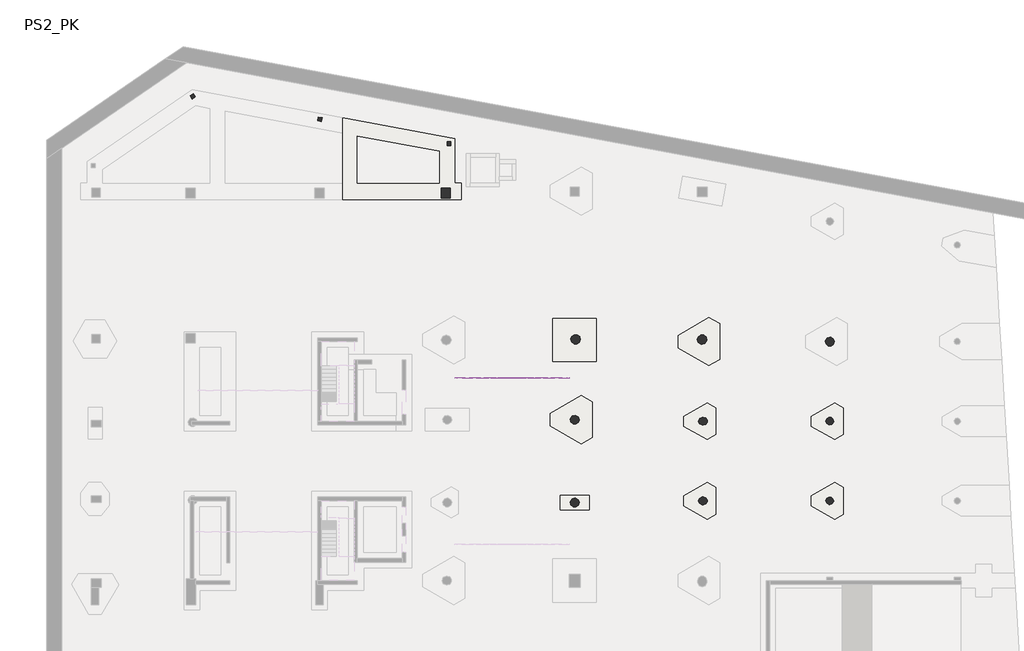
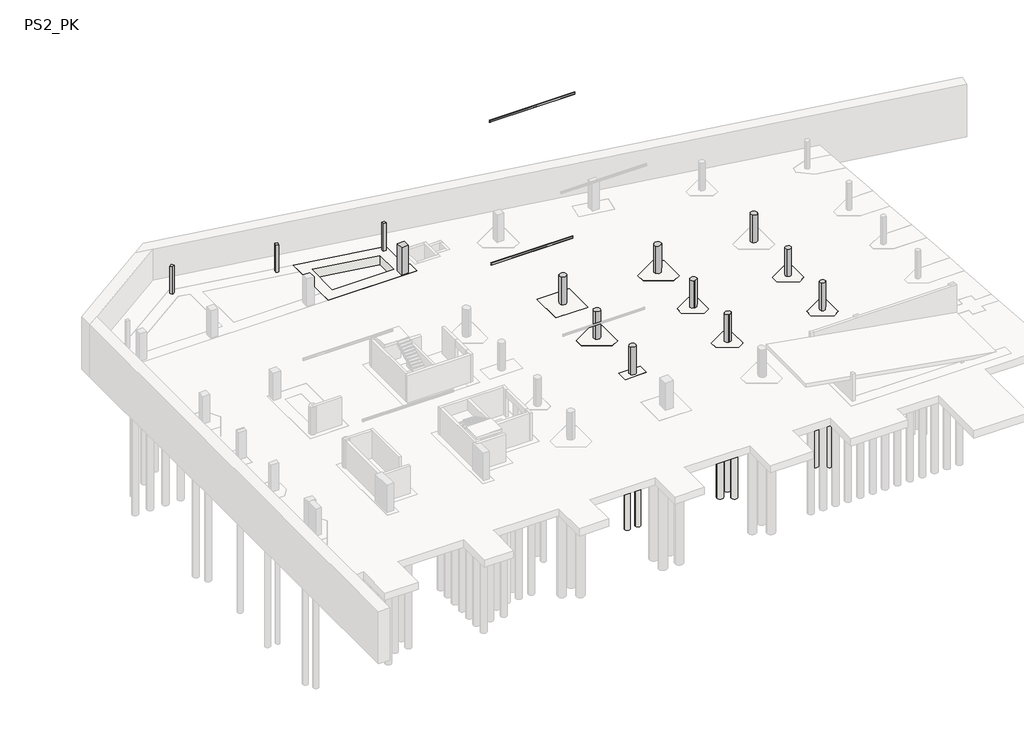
# One storey, part 7 of 10: 48 slabs, 13 columns, 2 beams.
"""IFC4 building model written with IfcOpenShell, lengths in millimetres."""

from ifc_helpers import new_model, si_unit, point, frame, frame_2d, origin, place, context, project, spatial, polyline, circle_curve, trimmed, segment, composite_curve, outline, extrude, faceted_brep, transform, mapped, element, save
from ifc_brep_helpers import plane_surface, cylinder_surface, advanced_brep
from components import upn200x75_3e587e5f, upn200x75_de95b273, columna_seccomp_circ_columna_seccomp_circ_600x700_09dd4ec2

model = new_model("IFC4")

# Units and contexts
model_context = context("Model", 3, world=origin())
ifc_project = project(units=[si_unit("LENGTHUNIT", "METRE", prefix="MILLI")], contexts=[model_context])

# Site, building, storey
site = spatial("IfcSite", under=ifc_project)
building = spatial("IfcBuilding", under=site)
storey = spatial("IfcBuildingStorey", under=building, Name="PS2_PK", Elevation=-1600.0)

# Beams
placement = place(None, origin())
upn200x75_shape = upn200x75_3e587e5f(model_context)
element("IfcBeam", 1, ObjectType="M_MC Shapes : UPN200x75", at=placement, inside=storey, context=model_context, shape_type="MappedRepresentation", body=[
    mapped(upn200x75_shape, transform((1578.7451436, 10990.5238327, 23660.0000368), x_axis=(-0.9999999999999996, 3.175673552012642e-08, 0.0), y_axis=(-3.175673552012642e-08, -0.9999999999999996, 0.0), z_axis=(0.0, 0.0, 1.0))),
])
upn200x75_2_shape = upn200x75_de95b273(model_context)
element("IfcBeam", 2, ObjectType="M_MC Shapes : UPN200x75", at=placement, inside=storey, context=model_context, shape_type="MappedRepresentation", body=[
    mapped(upn200x75_2_shape, transform((1578.7451428, 10990.5238327, 7760.0000231), x_axis=(-0.9999999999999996, 3.175673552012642e-08, 0.0), y_axis=(-3.175673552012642e-08, -0.9999999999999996, 0.0), z_axis=(0.0, 0.0, 1.0))),
])

# Columns
element("IfcColumn", 3, ObjectType="Hormigón-Redondo-Pilar : Pilo_Rodo-Formigo-700", at=placement, inside=storey, context=model_context, shape_type="SweptSolid", body=[
    extrude(outline(composite_curve([segment(trimmed(circle_curve(frame_2d((26484.7068935, 13864.8960687)), 350.0), [point((26196.4399761, 13666.3962342))], [point((26772.9738109, 14063.3959033))], False, "CARTESIAN"), True, "CONTINUOUS"), segment(trimmed(circle_curve(frame_2d((26484.7068935, 13864.8960687)), 350.0), [point((26772.9738109, 14063.3959033))], [point((26196.4399761, 13666.3962342))], False, "CARTESIAN"), True, "CONTINUOUS")], self_intersect=False)), frame((0.0, 0.0, -1600.0), z_axis=(0.0, 0.0, 1.0), x_axis=(1.0, 0.0, 0.0)), (0.0, 0.0, 1.0), 3050.0),
])
element("IfcColumn", 4, ObjectType="Hormigón-Redondo-Pilar : Pilo_Rodo-Formigo-700", at=placement, inside=storey, context=model_context, shape_type="SweptSolid", body=[
    extrude(outline(composite_curve([segment(trimmed(circle_curve(frame_2d((6484.70689, 1239.8960687)), 350.0), [point((6196.4399726, 1041.3962341))], [point((6772.9738074, 1438.3959033))], False, "CARTESIAN"), True, "CONTINUOUS"), segment(trimmed(circle_curve(frame_2d((6484.70689, 1239.8960687)), 350.0), [point((6772.9738074, 1438.3959033))], [point((6196.4399726, 1041.3962341))], False, "CARTESIAN"), True, "CONTINUOUS")], self_intersect=False)), frame((0.0, 0.0, -1600.0), z_axis=(0.0, 0.0, 1.0), x_axis=(1.0, 0.0, 0.0)), (0.0, 0.0, 1.0), 3050.0),
])
element("IfcColumn", 5, ObjectType="Hormigón-Redondo-Pilar : Pilo_Rodo-Formigo-700", at=placement, inside=storey, context=model_context, shape_type="SweptSolid", body=[
    extrude(outline(composite_curve([segment(trimmed(circle_curve(frame_2d((6484.70689, 7739.8960687)), 350.0), [point((6196.4399726, 7541.3962342))], [point((6772.9738074, 7938.3959033))], False, "CARTESIAN"), True, "CONTINUOUS"), segment(trimmed(circle_curve(frame_2d((6484.70689, 7739.8960687)), 350.0), [point((6772.9738074, 7938.3959033))], [point((6196.4399726, 7541.3962342))], False, "CARTESIAN"), True, "CONTINUOUS")], self_intersect=False)), frame((0.0, 0.0, -1600.0), z_axis=(0.0, 0.0, 1.0), x_axis=(1.0, 0.0, 0.0)), (0.0, 0.0, 1.0), 3050.0),
])
element("IfcColumn", 6, ObjectType="Hormigón-Redondo-Pilar : Pilo_Rodo-Formigo-600", at=placement, inside=storey, context=model_context, shape_type="SweptSolid", body=[
    extrude(outline(composite_curve([segment(trimmed(circle_curve(frame_2d((26484.7068935, 1364.9008549)), 300.0), [point((26237.6209643, 1194.7581395))], [point((26731.7928227, 1535.0435703))], False, "CARTESIAN"), True, "CONTINUOUS"), segment(trimmed(circle_curve(frame_2d((26484.7068935, 1364.9008549)), 300.0), [point((26731.7928227, 1535.0435703))], [point((26237.6209643, 1194.7581395))], False, "CARTESIAN"), True, "CONTINUOUS")], self_intersect=False)), frame((0.0, 0.0, -1600.0), z_axis=(0.0, 0.0, 1.0), x_axis=(1.0, 0.0, 0.0)), (0.0, 0.0, 1.0), 3050.0),
])
element("IfcColumn", 7, ObjectType="Hormigón-Redondo-Pilar : Pilo_Rodo-Formigo-600", at=placement, inside=storey, context=model_context, shape_type="SweptSolid", body=[
    extrude(outline(composite_curve([segment(trimmed(circle_curve(frame_2d((26484.7068935, 7614.9008582)), 300.0), [point((26237.6209643, 7444.7581428))], [point((26731.7928227, 7785.0435735))], False, "CARTESIAN"), True, "CONTINUOUS"), segment(trimmed(circle_curve(frame_2d((26484.7068935, 7614.9008582)), 300.0), [point((26731.7928227, 7785.0435735))], [point((26237.6209643, 7444.7581428))], False, "CARTESIAN"), True, "CONTINUOUS")], self_intersect=False)), frame((0.0, 0.0, -1600.0), z_axis=(0.0, 0.0, 1.0), x_axis=(1.0, 0.0, 0.0)), (0.0, 0.0, 1.0), 3050.0),
])
element("IfcColumn", 8, ObjectType="Hormigón-Redondo-Pilar : Pilo_Rodo-Formigo-750", at=placement, inside=storey, context=model_context, shape_type="SweptSolid", body=[
    extrude(outline(composite_curve([segment(trimmed(circle_curve(frame_2d((16483.7926044, 14014.3563294)), 375.0), [point((16174.9351929, 13801.6779352))], [point((16792.650016, 14227.0347236))], False, "CARTESIAN"), True, "CONTINUOUS"), segment(trimmed(circle_curve(frame_2d((16483.7926044, 14014.3563294)), 375.0), [point((16792.650016, 14227.0347236))], [point((16174.9351929, 13801.6779352))], False, "CARTESIAN"), True, "CONTINUOUS")], self_intersect=False)), frame((0.0, 0.0, -1600.0), z_axis=(0.0, 0.0, 1.0), x_axis=(1.0, 0.0, 0.0)), (0.0, 0.0, 1.0), 3050.0),
])
element("IfcColumn", 9, ObjectType="Hormigón-Redondo-Pilar : Pilo_Rodo-Formigo-750", at=placement, inside=storey, context=model_context, shape_type="SweptSolid", body=[
    extrude(outline(composite_curve([segment(trimmed(circle_curve(frame_2d((6558.8547778, 14039.3688755)), 375.0), [point((6249.9973663, 13826.6904813))], [point((6867.7121893, 14252.0472697))], False, "CARTESIAN"), True, "CONTINUOUS"), segment(trimmed(circle_curve(frame_2d((6558.8547778, 14039.3688755)), 375.0), [point((6867.7121893, 14252.0472697))], [point((6249.9973663, 13826.6904813))], False, "CARTESIAN"), True, "CONTINUOUS")], self_intersect=False)), frame((0.0, 0.0, -1600.0), z_axis=(0.0, 0.0, 1.0), x_axis=(1.0, 0.0, 0.0)), (0.0, 0.0, 1.0), 3050.0),
])
columna_seccomp_circ_columna_seccomp_circ_600x700_shape = columna_seccomp_circ_columna_seccomp_circ_600x700_09dd4ec2(model_context)
element("IfcColumn", 10, ObjectType="Columna_SecComp_Circ : Columna_SecComp_Circ_600x700", at=placement, inside=storey, context=model_context, shape_type="MappedRepresentation", body=[
    mapped(columna_seccomp_circ_columna_seccomp_circ_600x700_shape, transform((16534.7123127, 7614.8576326, 0.0), x_axis=(0.9999999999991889, -1.2737410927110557e-06, 0.0), y_axis=(1.2737410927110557e-06, 0.9999999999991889, 0.0), z_axis=(0.0, 0.0, 1.0))),
])
element("IfcColumn", 11, ObjectType="Columna_SecComp_Circ : Columna_SecComp_Circ_600x700", at=placement, inside=storey, context=model_context, shape_type="MappedRepresentation", body=[
    mapped(columna_seccomp_circ_columna_seccomp_circ_600x700_shape, transform((16534.7044202, 1364.8576338, 0.0), x_axis=(0.9999999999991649, -1.2923419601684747e-06, 0.0), y_axis=(1.2923419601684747e-06, 0.9999999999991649, 0.0), z_axis=(0.0, 0.0, 1.0))),
])
element("IfcColumn", 12, ObjectType="Concrete-Rectangular-Column : Pilar_Rectangular-Formigo-700x750", at=placement, inside=storey, context=model_context, shape_type="SweptSolid", body=[
    extrude(outline(polyline([(-3266.5947957, 25889.4000401), (-3266.5957418, 25139.4000401), (-3966.5957418, 25139.4009232), (-3966.5947957, 25889.4009232), (-3266.5947957, 25889.4000401)])), frame((0.0, 0.0, -1600.0), z_axis=(0.0, 0.0, 1.0), x_axis=(1.0, 0.0, 0.0)), (0.0, 0.0, 1.0), 3050.0),
])
element("IfcColumn", 13, ObjectType="Concrete-Rectangular-Column : Pilar_Rectangular-Formigo-300x300", at=placement, inside=storey, context=model_context, shape_type="SweptSolid", body=[
    extrude(outline(polyline([(-23416.0051635, 33307.9010156), (-23246.4572551, 33060.4065575), (-23493.9517132, 32890.8586491), (-23663.4996216, 33138.3531072), (-23416.0051635, 33307.9010156)])), frame((0.0, 0.0, -1600.0), z_axis=(0.0, 0.0, 1.0), x_axis=(1.0, 0.0, 0.0)), (0.0, 0.0, 1.0), 3050.0),
])
element("IfcColumn", 14, ObjectType="Concrete-Rectangular-Column : Pilar_Rectangular-Formigo-300x300", at=placement, inside=storey, context=model_context, shape_type="SweptSolid", body=[
    extrude(outline(polyline([(-13313.0928638, 31425.530421), (-13367.4571491, 31130.4973305), (-13662.4902396, 31184.8616158), (-13608.1259543, 31479.8947063), (-13313.0928638, 31425.530421)])), frame((0.0, 0.0, -1600.0), z_axis=(0.0, 0.0, 1.0), x_axis=(1.0, 0.0, 0.0)), (0.0, 0.0, 1.0), 3050.0),
])
element("IfcColumn", 15, ObjectType="Concrete-Rectangular-Column : Pilar_Rectangular-Formigo-300x300", at=placement, inside=storey, context=model_context, shape_type="SweptSolid", body=[
    extrude(outline(polyline([(-3215.2773548, 29541.9126691), (-3215.2777339, 29241.9126691), (-3515.2777339, 29241.9130482), (-3515.2773548, 29541.9130482), (-3215.2773548, 29541.9126691)])), frame((0.0, 0.0, -1600.0), z_axis=(0.0, 0.0, 1.0), x_axis=(1.0, 0.0, 0.0)), (0.0, 0.0, 1.0), 3050.0),
])

# Slabs
element("IfcSlab", 16, ObjectType="FunCap_Concreto_1100", at=placement, inside=storey, context=model_context, shape_type="Brep", body=[
    faceted_brep([(7855.9029882, 9139.8700951, -2700.0), (7855.899446, 6339.8700948, -2700.0), (7011.5240598, 5852.3711635, -2700.0), (4586.6547012, 7252.3742307, -2700.0), (4586.655934, 8227.3742298, -2700.0), (7011.5288361, 9627.3711625, -2700.0), (7855.9029882, 9139.8700951, -1600.0), (7011.5288361, 9627.3711625, -1600.0), (4586.655934, 8227.3742298, -1600.0), (4586.6547012, 7252.3742307, -1600.0), (7011.5240598, 5852.3711635, -1600.0), (7855.899446, 6339.8700948, -1600.0), (7855.9029882, 9139.8700951, -2400.0), (7855.899446, 6339.8700948, -2400.0), (7011.5240598, 5852.3711635, -2400.0), (4586.6547012, 7252.3742307, -2400.0), (4586.655934, 8227.3742298, -2400.0), (7011.5288361, 9627.3711625, -2400.0)], [[[0, 1, 2, 3, 4, 5]], [[6, 7, 8, 9, 10, 11]], [[1, 0, 12, 6, 11, 13]], [[2, 1, 13, 11, 10, 14]], [[3, 2, 14, 10, 9, 15]], [[4, 3, 15, 9, 8, 16]], [[5, 4, 16, 8, 7, 17]], [[0, 5, 17, 7, 6, 12]]]),
])
element("IfcSlab", 17, ObjectType="FunCap_Concreto_1400", at=placement, inside=storey, context=model_context, shape_type="Brep", body=[
    faceted_brep([(-11740.2838214, 25014.8948826, -3000.0), (-11740.2766508, 30683.3357077, -3000.0), (-11740.2761638, 31068.2628162, -3000.0), (-11740.275697, 31437.3264138, -3000.0), (-2915.2752776, 29792.7810884, -3000.0), (-2915.2796771, 26314.8837209, -3000.0), (-2390.2821778, 26314.883056, -3000.0), (-2390.2838219, 25014.8830557, -3000.0), (-4119.7583398, 26314.885525, -3000.0), (-4119.7553151, 28790.9345659, -3000.0), (-10544.7563485, 29993.8823621, -3000.0), (-10544.7608402, 26314.8933703, -3000.0), (-11740.2838214, 25014.8948826, -1600.0), (-2390.2838219, 25014.8830557, -1600.0), (-2390.2821778, 26314.883056, -1600.0), (-2915.2796771, 26314.8837209, -1600.0), (-2915.2752776, 29792.7810884, -1600.0), (-11740.275697, 31437.3264138, -1600.0), (-11740.2772411, 30216.6685595, -1600.0), (-11740.2821769, 26314.8948822, -1600.0), (-4119.7583398, 26314.885525, -1600.0), (-10544.7608402, 26314.8933703, -1600.0), (-10544.7563485, 29993.8823621, -1600.0), (-4119.7553151, 28790.9345659, -1600.0), (-11740.2838214, 25014.8948826, -2700.0), (-11740.275697, 31437.3264138, -2700.0), (-2915.2752776, 29792.7810884, -2400.0), (-2915.2796771, 26314.8837209, -2400.0), (-2390.2821778, 26314.883056, -2400.0), (-2390.2838219, 25014.8830557, -2400.0)], [[[0, 1, 2, 3, 4, 5, 6, 7], [8, 9, 10, 11]], [[12, 13, 14, 15, 16, 17, 18, 19], [20, 21, 22, 23]], [[3, 2, 1, 0, 24, 12, 19, 18, 17, 25]], [[4, 3, 25, 17, 16, 26]], [[5, 4, 26, 16, 15, 27]], [[6, 5, 27, 15, 14, 28]], [[7, 6, 28, 14, 13, 29]], [[0, 7, 29, 13, 12, 24]], [[9, 8, 20, 23]], [[10, 9, 23, 22]], [[11, 10, 22, 21]], [[8, 11, 21, 20]]]),
])
element("IfcSlab", 18, ObjectType="FunCap_Concreto_1100", at=placement, inside=storey, context=model_context, shape_type="Brep", body=[
    faceted_brep([(17011.5365827, 15752.3585142, -2700.0), (17855.9107353, 15264.8574449, -2700.0), (17855.9071944, 12464.8574465, -2700.0), (17011.5318083, 11977.3585138, -2700.0), (14586.6624488, 13377.3615819, -2700.0), (14586.6636815, 14352.3615815, -2700.0), (17011.5365827, 15752.3585142, -1600.0), (14586.6636815, 14352.3615815, -1600.0), (14586.6624488, 13377.3615819, -1600.0), (17011.5318083, 11977.3585138, -1600.0), (17855.9071944, 12464.8574465, -1600.0), (17855.9107353, 15264.8574449, -1600.0), (17011.5365827, 15752.3585142, -2400.0), (17855.9107353, 15264.8574449, -2400.0), (17855.9071944, 12464.8574465, -2400.0), (17011.5318083, 11977.3585138, -2400.0), (14586.6624488, 13377.3615819, -2400.0), (14586.6636815, 14352.3615815, -2400.0)], [[[0, 1, 2, 3, 4, 5]], [[6, 7, 8, 9, 10, 11]], [[1, 0, 12, 6, 11, 13]], [[2, 1, 13, 11, 10, 14]], [[3, 2, 14, 10, 9, 15]], [[4, 3, 15, 9, 8, 16]], [[5, 4, 16, 8, 7, 17]], [[0, 5, 17, 7, 6, 12]]]),
])
element("IfcSlab", 19, ObjectType="FunCap_Concreto_1100", at=placement, inside=storey, context=model_context, shape_type="Brep", body=[
    faceted_brep([(4784.7043825, 15689.8739809, -2700.0), (8184.7043828, 15689.8696803, -2700.0), (8184.7000817, 12289.8696794, -2700.0), (4784.7000828, 12289.8739801, -2700.0), (4784.7043825, 15689.8739809, -1600.0), (4784.7000828, 12289.8739801, -1600.0), (8184.7000817, 12289.8696794, -1600.0), (8184.7043828, 15689.8696803, -1600.0), (4784.7043825, 15689.8739809, -2400.0), (8184.7043828, 15689.8696803, -2400.0), (8184.7000817, 12289.8696794, -2400.0), (4784.7000828, 12289.8739801, -2400.0)], [[[0, 1, 2, 3]], [[4, 5, 6, 7]], [[1, 0, 8, 4, 7, 9]], [[2, 1, 9, 7, 6, 10]], [[3, 2, 10, 6, 5, 11]], [[0, 3, 11, 5, 4, 8]]]),
])
element("IfcSlab", 20, ObjectType="FunCap_Concreto_1100", at=placement, inside=storey, context=model_context, shape_type="Brep", body=[
    faceted_brep([(15051.1118503, 7998.8033075, -2700.0), (16866.8943642, 9053.7601136, -2700.0), (17538.0635621, 8666.2592644, -2700.0), (17538.0609065, 6566.2592643, -2700.0), (16866.8907276, 6178.7601132, -2700.0), (15051.1108738, 7227.104163, -2700.0), (15051.1118503, 7998.8033075, -1600.0), (15051.1108738, 7227.104163, -1600.0), (16866.8907276, 6178.7601132, -1600.0), (17538.0609065, 6566.2592643, -1600.0), (17538.0635621, 8666.2592644, -1600.0), (16866.8943642, 9053.7601136, -1600.0), (15051.1118503, 7998.8033075, -2400.0), (16866.8943642, 9053.7601136, -2400.0), (17538.0635621, 8666.2592644, -2400.0), (17538.0609065, 6566.2592643, -2400.0), (16866.8907276, 6178.7601132, -2400.0), (15051.1108738, 7227.104163, -2400.0)], [[[0, 1, 2, 3, 4, 5]], [[6, 7, 8, 9, 10, 11]], [[1, 0, 12, 6, 11, 13]], [[2, 1, 13, 11, 10, 14]], [[3, 2, 14, 10, 9, 15]], [[4, 3, 15, 9, 8, 16]], [[5, 4, 16, 8, 7, 17]], [[0, 5, 17, 7, 6, 12]]]),
])
element("IfcSlab", 21, ObjectType="FunCap_Concreto_1100", at=placement, inside=storey, context=model_context, shape_type="Brep", body=[
    faceted_brep([(25051.1118512, 7998.7906582, -2700.0), (26866.8943642, 9053.7474649, -2700.0), (27538.0635631, 8666.2466161, -2700.0), (27538.0609065, 6566.2466146, -2700.0), (26866.890728, 6178.7474644, -2700.0), (25051.1108747, 7227.0915137, -2700.0), (25051.1118512, 7998.7906582, -1600.0), (25051.1108747, 7227.0915137, -1600.0), (26866.890728, 6178.7474644, -1600.0), (27538.0609065, 6566.2466146, -1600.0), (27538.0635631, 8666.2466161, -1600.0), (26866.8943642, 9053.7474649, -1600.0), (25051.1118512, 7998.7906582, -2400.0), (26866.8943642, 9053.7474649, -2400.0), (27538.0635631, 8666.2466161, -2400.0), (27538.0609065, 6566.2466146, -2400.0), (26866.890728, 6178.7474644, -2400.0), (25051.1108747, 7227.0915137, -2400.0)], [[[0, 1, 2, 3, 4, 5]], [[6, 7, 8, 9, 10, 11]], [[1, 0, 12, 6, 11, 13]], [[2, 1, 13, 11, 10, 14]], [[3, 2, 14, 10, 9, 15]], [[4, 3, 15, 9, 8, 16]], [[5, 4, 16, 8, 7, 17]], [[0, 5, 17, 7, 6, 12]]]),
])
element("IfcSlab", 22, ObjectType="FunCap_Concreto_1100", at=placement, inside=storey, context=model_context, shape_type="Brep", body=[
    faceted_brep([(25051.1039459, 1748.7906587, -2700.0), (26866.8864584, 2803.7474639, -2700.0), (27538.0556568, 2416.2466151, -2700.0), (27538.0529998, 316.2466155, -2700.0), (26866.8828227, -71.2525361, -2700.0), (25051.102968, 977.0915147, -2700.0), (25051.1039459, 1748.7906587, -1600.0), (25051.102968, 977.0915147, -1600.0), (26866.8828227, -71.2525361, -1600.0), (27538.0529998, 316.2466155, -1600.0), (27538.0556568, 2416.2466151, -1600.0), (26866.8864584, 2803.7474639, -1600.0), (25051.1039459, 1748.7906587, -2400.0), (26866.8864584, 2803.7474639, -2400.0), (27538.0556568, 2416.2466151, -2400.0), (27538.0529998, 316.2466155, -2400.0), (26866.8828227, -71.2525361, -2400.0), (25051.102968, 977.0915147, -2400.0)], [[[0, 1, 2, 3, 4, 5]], [[6, 7, 8, 9, 10, 11]], [[1, 0, 12, 6, 11, 13]], [[2, 1, 13, 11, 10, 14]], [[3, 2, 14, 10, 9, 15]], [[4, 3, 15, 9, 8, 16]], [[5, 4, 16, 8, 7, 17]], [[0, 5, 17, 7, 6, 12]]]),
])
element("IfcSlab", 23, ObjectType="FunCap_Concreto_1100", at=placement, inside=storey, context=model_context, shape_type="Brep", body=[
    faceted_brep([(15051.103945, 1748.8033065, -2700.0), (16866.8864598, 2803.7601136, -2700.0), (17538.0556559, 2416.2592644, -2700.0), (17538.0530008, 316.2592648, -2700.0), (16866.8828223, -71.2398878, -2700.0), (15051.1029689, 977.1041625, -2700.0), (15051.103945, 1748.8033065, -1600.0), (15051.1029689, 977.1041625, -1600.0), (16866.8828223, -71.2398878, -1600.0), (17538.0530008, 316.2592648, -1600.0), (17538.0556559, 2416.2592644, -1600.0), (16866.8864598, 2803.7601136, -1600.0), (15051.103945, 1748.8033065, -2400.0), (16866.8864598, 2803.7601136, -2400.0), (17538.0556559, 2416.2592644, -2400.0), (17538.0530008, 316.2592648, -2400.0), (16866.8828223, -71.2398878, -2400.0), (15051.1029689, 977.1041625, -2400.0)], [[[0, 1, 2, 3, 4, 5]], [[6, 7, 8, 9, 10, 11]], [[1, 0, 12, 6, 11, 13]], [[2, 1, 13, 11, 10, 14]], [[3, 2, 14, 10, 9, 15]], [[4, 3, 15, 9, 8, 16]], [[5, 4, 16, 8, 7, 17]], [[0, 5, 17, 7, 6, 12]]]),
])
element("IfcSlab", 24, ObjectType="FunCap_Concreto_1100", at=placement, inside=storey, context=model_context, shape_type="Brep", body=[
    faceted_brep([(5359.6868331, 1814.8732535, -2700.0), (7609.6868326, 1814.8704068, -2700.0), (7609.6853782, 664.8704069, -2700.0), (5359.6853796, 664.8732536, -2700.0), (5359.6868331, 1814.8732535, -1600.0), (5359.6853796, 664.8732536, -1600.0), (7609.6853782, 664.8704069, -1600.0), (7609.6868326, 1814.8704068, -1600.0), (5359.6868331, 1814.8732535, -2400.0), (7609.6868326, 1814.8704068, -2400.0), (7609.6853782, 664.8704069, -2400.0), (5359.6853796, 664.8732536, -2400.0)], [[[0, 1, 2, 3]], [[4, 5, 6, 7]], [[1, 0, 8, 4, 7, 9]], [[2, 1, 9, 7, 6, 10]], [[3, 2, 10, 6, 5, 11]], [[0, 3, 11, 5, 4, 8]]]),
])
element("IfcSlab", 25, ObjectType="Fun_Pilote_Redondo : Fun_Pilote_Redondo_550x16000", at=placement, inside=storey, context=model_context, shape_type="SweptSolid", body=[
    extrude(outline(composite_curve([segment(trimmed(circle_curve(frame_2d((7034.6861068, 1239.8686315)), 275.0), [point((6759.6861068, 1239.8686315))], [point((7309.6861068, 1239.8686315))], False, "CARTESIAN"), True, "CONTINUOUS"), segment(trimmed(circle_curve(frame_2d((7034.6861068, 1239.8686315)), 275.0), [point((7309.6861068, 1239.8686315))], [point((6759.6861068, 1239.8686315))], False, "CARTESIAN"), True, "CONTINUOUS")], self_intersect=False)), frame((0.0, 0.0, -18700.0), z_axis=(0.0, 0.0, 1.0), x_axis=(1.0, 0.0, 0.0)), (0.0, 0.0, 1.0), 16000.0),
])
element("IfcSlab", 26, ObjectType="Fun_Pilote_Redondo : Fun_Pilote_Redondo_550x16000", at=placement, inside=storey, context=model_context, shape_type="SweptSolid", body=[
    extrude(outline(composite_curve([segment(trimmed(circle_curve(frame_2d((5934.6861074, 1239.8700227)), 275.0), [point((5659.6861074, 1239.8700227))], [point((6209.6861074, 1239.8700227))], False, "CARTESIAN"), True, "CONTINUOUS"), segment(trimmed(circle_curve(frame_2d((5934.6861074, 1239.8700227)), 275.0), [point((6209.6861074, 1239.8700227))], [point((5659.6861074, 1239.8700227))], False, "CARTESIAN"), True, "CONTINUOUS")], self_intersect=False)), frame((0.0, 0.0, -18700.0), z_axis=(0.0, 0.0, 1.0), x_axis=(1.0, 0.0, 0.0)), (0.0, 0.0, 1.0), 16000.0),
])
element("IfcSlab", 27, ObjectType="Fun_Pilote_Redondo : Fun_Pilote_Redondo_Conc_650x16000", at=placement, inside=storey, context=model_context, shape_type="SweptSolid", body=[
    extrude(outline(composite_curve([segment(trimmed(circle_curve(frame_2d((-3015.2829939, 25664.8838456)), 325.0), [point((-3340.2829939, 25664.8838456))], [point((-2690.2829939, 25664.8838456))], False, "CARTESIAN"), True, "CONTINUOUS"), segment(trimmed(circle_curve(frame_2d((-3015.2829939, 25664.8838456)), 325.0), [point((-2690.2829939, 25664.8838456))], [point((-3340.2829939, 25664.8838456))], False, "CARTESIAN"), True, "CONTINUOUS")], self_intersect=False)), frame((0.0, 0.0, -18700.0), z_axis=(0.0, 0.0, 1.0), x_axis=(1.0, 0.0, 0.0)), (0.0, 0.0, 1.0), 15700.0),
])
element("IfcSlab", 28, ObjectType="Fun_Pilote_Redondo : Fun_Pilote_Redondo_Conc_650x16000", at=placement, inside=storey, context=model_context, shape_type="SweptSolid", body=[
    extrude(outline(composite_curve([segment(trimmed(circle_curve(frame_2d((-3515.2806976, 27479.5737597)), 325.0), [point((-3840.2806976, 27479.5737597))], [point((-3190.2806976, 27479.5737597))], False, "CARTESIAN"), True, "CONTINUOUS"), segment(trimmed(circle_curve(frame_2d((-3515.2806976, 27479.5737597)), 325.0), [point((-3190.2806976, 27479.5737597))], [point((-3840.2806976, 27479.5737597))], False, "CARTESIAN"), True, "CONTINUOUS")], self_intersect=False)), frame((0.0, 0.0, -18700.0), z_axis=(0.0, 0.0, 1.0), x_axis=(1.0, 0.0, 0.0)), (0.0, 0.0, 1.0), 15700.0),
])
element("IfcSlab", 29, ObjectType="Fun_Pilote_Redondo : Fun_Pilote_Redondo_Conc_650x16000", at=placement, inside=storey, context=model_context, shape_type="SweptSolid", body=[
    extrude(outline(composite_curve([segment(trimmed(circle_curve(frame_2d((-3515.2784017, 29294.2630416)), 325.0), [point((-3840.2784017, 29294.2630416))], [point((-3190.2784017, 29294.2630416))], False, "CARTESIAN"), True, "CONTINUOUS"), segment(trimmed(circle_curve(frame_2d((-3515.2784017, 29294.2630416)), 325.0), [point((-3190.2784017, 29294.2630416))], [point((-3840.2784017, 29294.2630416))], False, "CARTESIAN"), True, "CONTINUOUS")], self_intersect=False)), frame((0.0, 0.0, -18700.0), z_axis=(0.0, 0.0, 1.0), x_axis=(1.0, 0.0, 0.0)), (0.0, 0.0, 1.0), 15700.0),
])
element("IfcSlab", 30, ObjectType="Fun_Pilote_Redondo : Fun_Pilote_Redondo_Conc_650x16000", at=placement, inside=storey, context=model_context, shape_type="SweptSolid", body=[
    extrude(outline(composite_curve([segment(trimmed(circle_curve(frame_2d((-5636.9986891, 29689.6471802)), 325.0), [point((-5961.9986891, 29689.6471802))], [point((-5311.9986891, 29689.6471802))], False, "CARTESIAN"), True, "CONTINUOUS"), segment(trimmed(circle_curve(frame_2d((-5636.9986891, 29689.6471802)), 325.0), [point((-5311.9986891, 29689.6471802))], [point((-5961.9986891, 29689.6471802))], False, "CARTESIAN"), True, "CONTINUOUS")], self_intersect=False)), frame((0.0, 0.0, -18700.0), z_axis=(0.0, 0.0, 1.0), x_axis=(1.0, 0.0, 0.0)), (0.0, 0.0, 1.0), 15700.0),
])
element("IfcSlab", 31, ObjectType="Fun_Pilote_Redondo : Fun_Pilote_Redondo_Conc_650x16000", at=placement, inside=storey, context=model_context, shape_type="SweptSolid", body=[
    extrude(outline(composite_curve([segment(trimmed(circle_curve(frame_2d((-7758.718976, 30085.0313179)), 325.0), [point((-8083.718976, 30085.0313179))], [point((-7433.718976, 30085.0313179))], False, "CARTESIAN"), True, "CONTINUOUS"), segment(trimmed(circle_curve(frame_2d((-7758.718976, 30085.0313179)), 325.0), [point((-7433.718976, 30085.0313179))], [point((-8083.718976, 30085.0313179))], False, "CARTESIAN"), True, "CONTINUOUS")], self_intersect=False)), frame((0.0, 0.0, -18700.0), z_axis=(0.0, 0.0, 1.0), x_axis=(1.0, 0.0, 0.0)), (0.0, 0.0, 1.0), 15700.0),
])
element("IfcSlab", 32, ObjectType="Fun_Pilote_Redondo : Fun_Pilote_Redondo_Conc_650x16000", at=placement, inside=storey, context=model_context, shape_type="SweptSolid", body=[
    extrude(outline(composite_curve([segment(trimmed(circle_curve(frame_2d((-9880.4392628, 30480.4154556)), 325.0), [point((-10205.4392628, 30480.4154556))], [point((-9555.4392628, 30480.4154556))], False, "CARTESIAN"), True, "CONTINUOUS"), segment(trimmed(circle_curve(frame_2d((-9880.4392628, 30480.4154556)), 325.0), [point((-9555.4392628, 30480.4154556))], [point((-10205.4392628, 30480.4154556))], False, "CARTESIAN"), True, "CONTINUOUS")], self_intersect=False)), frame((0.0, 0.0, -18700.0), z_axis=(0.0, 0.0, 1.0), x_axis=(1.0, 0.0, 0.0)), (0.0, 0.0, 1.0), 15700.0),
])
element("IfcSlab", 33, ObjectType="Fun_Pilote_Redondo : Fun_Pilote_Redondo_Conc_650x16000", at=placement, inside=storey, context=model_context, shape_type="AdvancedBrep", body=[
    advanced_brep(
    [(-12327.1595497, 30875.7995932, -2700.0), (-11740.2766508, 30683.3357077, -2700.0), (-11740.2761638, 31068.2628162, -2700.0), (-12327.1595497, 30875.7995932, -18700.0), (-11677.1595497, 30875.7995932, -18700.0), (-11677.1595497, 30875.7995932, -3000.0), (-11740.2766508, 30683.3357077, -3000.0), (-11740.2761638, 31068.2628162, -3000.0)],
    [
        (0, 1, circle_curve(frame((-12002.1595497, 30875.7995932, -2700.0), z_axis=(0.0, 0.0, 1.0), x_axis=(1.0, 0.0, 0.0)), 325.0)),
        (1, 2),
        (2, 0, circle_curve(frame((-12002.1595497, 30875.7995932, -2700.0), z_axis=(0.0, 0.0, 1.0), x_axis=(1.0, 0.0, 0.0)), 325.0)),
        (3, 4, circle_curve(frame((-12002.1595497, 30875.7995932, -18700.0), z_axis=(0.0, 0.0, -1.0), x_axis=(1.0, 0.0, 0.0)), 325.0)),
        (4, 3, circle_curve(frame((-12002.1595497, 30875.7995932, -18700.0), z_axis=(0.0, 0.0, -1.0), x_axis=(1.0, 0.0, 0.0)), 325.0)),
        (4, 5),
        (5, 6, circle_curve(frame((-12002.1595497, 30875.7995932, -3000.0), z_axis=(0.0, 0.0, -1.0), x_axis=(1.0, 0.0, 0.0)), 325.0)),
        (6, 1),
        (0, 3),
        (2, 7),
        (7, 5, circle_curve(frame((-12002.1595497, 30875.7995932, -3000.0), z_axis=(0.0, 0.0, -1.0), x_axis=(1.0, 0.0, 0.0)), 325.0)),
        (7, 6),
    ],
    [
        plane_surface(frame((-11677.1595497, 30875.7995932, -2700.0), z_axis=(0.0, 0.0, 1.0), x_axis=(0.0, 1.0, 0.0))),
        plane_surface(frame((-11677.1595497, 30875.7995932, -18700.0), z_axis=(0.0, 0.0, -1.0), x_axis=(0.0, -1.0, 0.0))),
        cylinder_surface(frame((-12002.1595497, 30875.7995932, -18700.0), z_axis=(0.0, 0.0, 1.0), x_axis=(1.0, 0.0, 0.0)), 325.0),
        plane_surface(frame((-11740.2772411, 30216.6685606, -3000.0), z_axis=(0.0, 0.0, 1.0000000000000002), x_axis=(1.2650187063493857e-06, 0.9999999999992, 0.0))),
        plane_surface(frame((-11740.2838214, 25014.8948826, -3000.0), z_axis=(0.9999999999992, -1.2650187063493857e-06, 0.0), x_axis=(0.0, 0.0, 1.0))),
    ],
    [
        (0, [[1, 2, 3]]),
        (1, [[4, 5]]),
        (2, [[-5, 6, 7, 8, -1, 9]]),
        (2, [[-4, -9, -3, 10, 11, -6]]),
        (3, [[12, -7, -11]]),
        (4, [[-12, -10, -2, -8]]),
    ],
),
])
element("IfcSlab", 34, ObjectType="Fun_Pilote_Redondo : Fun_Pilote_Redondo_Conc_650x16000", at=placement, inside=storey, context=model_context, shape_type="SweptSolid", body=[
    extrude(outline(composite_curve([segment(trimmed(circle_curve(frame_2d((-18367.3204108, 32061.9520062)), 325.0), [point((-18692.3204108, 32061.9520062))], [point((-18042.3204108, 32061.9520062))], False, "CARTESIAN"), True, "CONTINUOUS"), segment(trimmed(circle_curve(frame_2d((-18367.3204108, 32061.9520062)), 325.0), [point((-18042.3204108, 32061.9520062))], [point((-18692.3204108, 32061.9520062))], False, "CARTESIAN"), True, "CONTINUOUS")], self_intersect=False)), frame((0.0, 0.0, -18700.0), z_axis=(0.0, 0.0, 1.0), x_axis=(1.0, 0.0, 0.0)), (0.0, 0.0, 1.0), 16000.0),
])
element("IfcSlab", 35, ObjectType="Fun_Pilote_Redondo : Fun_Pilote_Redondo_Conc_650x16000", at=placement, inside=storey, context=model_context, shape_type="SweptSolid", body=[
    extrude(outline(composite_curve([segment(trimmed(circle_curve(frame_2d((-20489.0406977, 32457.3361439)), 325.0), [point((-20814.0406977, 32457.3361439))], [point((-20164.0406977, 32457.3361439))], False, "CARTESIAN"), True, "CONTINUOUS"), segment(trimmed(circle_curve(frame_2d((-20489.0406977, 32457.3361439)), 325.0), [point((-20164.0406977, 32457.3361439))], [point((-20814.0406977, 32457.3361439))], False, "CARTESIAN"), True, "CONTINUOUS")], self_intersect=False)), frame((0.0, 0.0, -18700.0), z_axis=(0.0, 0.0, 1.0), x_axis=(1.0, 0.0, 0.0)), (0.0, 0.0, 1.0), 16000.0),
])
element("IfcSlab", 36, ObjectType="Fun_Pilote_Redondo : Fun_Pilote_Redondo_Conc_650x16000", at=placement, inside=storey, context=model_context, shape_type="SweptSolid", body=[
    extrude(outline(composite_curve([segment(trimmed(circle_curve(frame_2d((-22685.2648176, 32866.6041259)), 325.0), [point((-23010.2648176, 32866.6041259))], [point((-22360.2648176, 32866.6041259))], False, "CARTESIAN"), True, "CONTINUOUS"), segment(trimmed(circle_curve(frame_2d((-22685.2648176, 32866.6041259)), 325.0), [point((-22360.2648176, 32866.6041259))], [point((-23010.2648176, 32866.6041259))], False, "CARTESIAN"), True, "CONTINUOUS")], self_intersect=False)), frame((0.0, 0.0, -18700.0), z_axis=(0.0, 0.0, 1.0), x_axis=(1.0, 0.0, 0.0)), (0.0, 0.0, 1.0), 16000.0),
])
element("IfcSlab", 37, ObjectType="Fun_Pilote_Redondo : Fun_Pilote_Redondo_Conc_650x16000", at=placement, inside=storey, context=model_context, shape_type="SweptSolid", body=[
    extrude(outline(composite_curve([segment(trimmed(circle_curve(frame_2d((-24755.3602722, 32026.6008645)), 325.0), [point((-25080.3602722, 32026.6008645))], [point((-24430.3602722, 32026.6008645))], False, "CARTESIAN"), True, "CONTINUOUS"), segment(trimmed(circle_curve(frame_2d((-24755.3602722, 32026.6008645)), 325.0), [point((-24430.3602722, 32026.6008645))], [point((-25080.3602722, 32026.6008645))], False, "CARTESIAN"), True, "CONTINUOUS")], self_intersect=False)), frame((0.0, 0.0, -18700.0), z_axis=(0.0, 0.0, 1.0), x_axis=(1.0, 0.0, 0.0)), (0.0, 0.0, 1.0), 16000.0),
])
element("IfcSlab", 38, ObjectType="Fun_Pilote_Redondo : Fun_Pilote_Redondo_Conc_650x16000", at=placement, inside=storey, context=model_context, shape_type="SweptSolid", body=[
    extrude(outline(composite_curve([segment(trimmed(circle_curve(frame_2d((-7781.9496601, 25664.8898744)), 325.0), [point((-8106.9496601, 25664.8898744))], [point((-7456.9496601, 25664.8898744))], False, "CARTESIAN"), True, "CONTINUOUS"), segment(trimmed(circle_curve(frame_2d((-7781.9496601, 25664.8898744)), 325.0), [point((-7456.9496601, 25664.8898744))], [point((-8106.9496601, 25664.8898744))], False, "CARTESIAN"), True, "CONTINUOUS")], self_intersect=False)), frame((0.0, 0.0, -18700.0), z_axis=(0.0, 0.0, 1.0), x_axis=(1.0, 0.0, 0.0)), (0.0, 0.0, 1.0), 15700.0),
])
element("IfcSlab", 39, ObjectType="Fun_Pilote_Redondo : Fun_Pilote_Redondo_Conc_650x16000", at=placement, inside=storey, context=model_context, shape_type="SweptSolid", body=[
    extrude(outline(composite_curve([segment(trimmed(circle_curve(frame_2d((-6193.0607713, 25664.8878645)), 325.0), [point((-6518.0607713, 25664.8878645))], [point((-5868.0607713, 25664.8878645))], False, "CARTESIAN"), True, "CONTINUOUS"), segment(trimmed(circle_curve(frame_2d((-6193.0607713, 25664.8878645)), 325.0), [point((-5868.0607713, 25664.8878645))], [point((-6518.0607713, 25664.8878645))], False, "CARTESIAN"), True, "CONTINUOUS")], self_intersect=False)), frame((0.0, 0.0, -18700.0), z_axis=(0.0, 0.0, 1.0), x_axis=(1.0, 0.0, 0.0)), (0.0, 0.0, 1.0), 15700.0),
])
element("IfcSlab", 40, ObjectType="Fun_Pilote_Redondo : Fun_Pilote_Redondo_Conc_650x16000", at=placement, inside=storey, context=model_context, shape_type="SweptSolid", body=[
    extrude(outline(composite_curve([segment(trimmed(circle_curve(frame_2d((-4604.1718826, 25664.885855)), 325.0), [point((-4929.1718826, 25664.885855))], [point((-4279.1718826, 25664.885855))], False, "CARTESIAN"), True, "CONTINUOUS"), segment(trimmed(circle_curve(frame_2d((-4604.1718826, 25664.885855)), 325.0), [point((-4279.1718826, 25664.885855))], [point((-4929.1718826, 25664.885855))], False, "CARTESIAN"), True, "CONTINUOUS")], self_intersect=False)), frame((0.0, 0.0, -18700.0), z_axis=(0.0, 0.0, 1.0), x_axis=(1.0, 0.0, 0.0)), (0.0, 0.0, 1.0), 15700.0),
])
element("IfcSlab", 41, ObjectType="Fun_Pilote_Redondo : Fun_Pilote_Redondo_Conc_650x16000", at=placement, inside=storey, context=model_context, shape_type="SweptSolid", body=[
    extrude(outline(composite_curve([segment(trimmed(circle_curve(frame_2d((26861.1496179, 8262.7946022)), 325.0), [point((26536.1496179, 8262.7946022))], [point((27186.1496179, 8262.7946022))], False, "CARTESIAN"), True, "CONTINUOUS"), segment(trimmed(circle_curve(frame_2d((26861.1496179, 8262.7946022)), 325.0), [point((27186.1496179, 8262.7946022))], [point((26536.1496179, 8262.7946022))], False, "CARTESIAN"), True, "CONTINUOUS")], self_intersect=False)), frame((0.0, 0.0, -18700.0), z_axis=(0.0, 0.0, 1.0), x_axis=(1.0, 0.0, 0.0)), (0.0, 0.0, 1.0), 16000.0),
])
element("IfcSlab", 42, ObjectType="Fun_Pilote_Redondo : Fun_Pilote_Redondo_Conc_650x16000", at=placement, inside=storey, context=model_context, shape_type="SweptSolid", body=[
    extrude(outline(composite_curve([segment(trimmed(circle_curve(frame_2d((26861.1479725, 6962.7946028)), 325.0), [point((26536.1479725, 6962.7946028))], [point((27186.1479725, 6962.7946028))], False, "CARTESIAN"), True, "CONTINUOUS"), segment(trimmed(circle_curve(frame_2d((26861.1479725, 6962.7946028)), 325.0), [point((27186.1479725, 6962.7946028))], [point((26536.1479725, 6962.7946028))], False, "CARTESIAN"), True, "CONTINUOUS")], self_intersect=False)), frame((0.0, 0.0, -18700.0), z_axis=(0.0, 0.0, 1.0), x_axis=(1.0, 0.0, 0.0)), (0.0, 0.0, 1.0), 16000.0),
])
element("IfcSlab", 43, ObjectType="Fun_Pilote_Redondo : Fun_Pilote_Redondo_Conc_650x16000", at=placement, inside=storey, context=model_context, shape_type="SweptSolid", body=[
    extrude(outline(composite_curve([segment(trimmed(circle_curve(frame_2d((25731.7849258, 7618.9503718)), 325.0), [point((25406.7849258, 7618.9503718))], [point((26056.7849258, 7618.9503718))], False, "CARTESIAN"), True, "CONTINUOUS"), segment(trimmed(circle_curve(frame_2d((25731.7849258, 7618.9503718)), 325.0), [point((26056.7849258, 7618.9503718))], [point((25406.7849258, 7618.9503718))], False, "CARTESIAN"), True, "CONTINUOUS")], self_intersect=False)), frame((0.0, 0.0, -18700.0), z_axis=(0.0, 0.0, 1.0), x_axis=(1.0, 0.0, 0.0)), (0.0, 0.0, 1.0), 16000.0),
])
element("IfcSlab", 44, ObjectType="Fun_Pilote_Redondo : Fun_Pilote_Redondo_Conc_650x16000", at=placement, inside=storey, context=model_context, shape_type="SweptSolid", body=[
    extrude(outline(composite_curve([segment(trimmed(circle_curve(frame_2d((16861.1479725, 6962.8072536)), 325.0), [point((16536.1479725, 6962.8072536))], [point((17186.1479725, 6962.8072536))], False, "CARTESIAN"), True, "CONTINUOUS"), segment(trimmed(circle_curve(frame_2d((16861.1479725, 6962.8072536)), 325.0), [point((17186.1479725, 6962.8072536))], [point((16536.1479725, 6962.8072536))], False, "CARTESIAN"), True, "CONTINUOUS")], self_intersect=False)), frame((0.0, 0.0, -18700.0), z_axis=(0.0, 0.0, 1.0), x_axis=(1.0, 0.0, 0.0)), (0.0, 0.0, 1.0), 16000.0),
])
element("IfcSlab", 45, ObjectType="Fun_Pilote_Redondo : Fun_Pilote_Redondo_Conc_650x16000", at=placement, inside=storey, context=model_context, shape_type="SweptSolid", body=[
    extrude(outline(composite_curve([segment(trimmed(circle_curve(frame_2d((15731.7849258, 7618.9630226)), 325.0), [point((15406.7849258, 7618.9630226))], [point((16056.7849258, 7618.9630226))], False, "CARTESIAN"), True, "CONTINUOUS"), segment(trimmed(circle_curve(frame_2d((15731.7849258, 7618.9630226)), 325.0), [point((16056.7849258, 7618.9630226))], [point((15406.7849258, 7618.9630226))], False, "CARTESIAN"), True, "CONTINUOUS")], self_intersect=False)), frame((0.0, 0.0, -18700.0), z_axis=(0.0, 0.0, 1.0), x_axis=(1.0, 0.0, 0.0)), (0.0, 0.0, 1.0), 16000.0),
])
element("IfcSlab", 46, ObjectType="Fun_Pilote_Redondo : Fun_Pilote_Redondo_Conc_650x16000", at=placement, inside=storey, context=model_context, shape_type="SweptSolid", body=[
    extrude(outline(composite_curve([segment(trimmed(circle_curve(frame_2d((16861.1496175, 8262.807253)), 325.0), [point((16536.1496175, 8262.807253))], [point((17186.1496175, 8262.807253))], False, "CARTESIAN"), True, "CONTINUOUS"), segment(trimmed(circle_curve(frame_2d((16861.1496175, 8262.807253)), 325.0), [point((17186.1496175, 8262.807253))], [point((16536.1496175, 8262.807253))], False, "CARTESIAN"), True, "CONTINUOUS")], self_intersect=False)), frame((0.0, 0.0, -18700.0), z_axis=(0.0, 0.0, 1.0), x_axis=(1.0, 0.0, 0.0)), (0.0, 0.0, 1.0), 16000.0),
])
element("IfcSlab", 47, ObjectType="Fun_Pilote_Redondo : Fun_Pilote_Redondo_Conc_850x16000", at=placement, inside=storey, context=model_context, shape_type="SweptSolid", body=[
    extrude(outline(composite_curve([segment(trimmed(circle_curve(frame_2d((5634.7033122, 14839.8729022)), 425.0), [point((5209.7033122, 14839.8729022))], [point((6059.7033122, 14839.8729022))], False, "CARTESIAN"), True, "CONTINUOUS"), segment(trimmed(circle_curve(frame_2d((5634.7033122, 14839.8729022)), 425.0), [point((6059.7033122, 14839.8729022))], [point((5209.7033122, 14839.8729022))], False, "CARTESIAN"), True, "CONTINUOUS")], self_intersect=False)), frame((0.0, 0.0, -18700.0), z_axis=(0.0, 0.0, 1.0), x_axis=(1.0, 0.0, 0.0)), (0.0, 0.0, 1.0), 16000.0),
])
element("IfcSlab", 48, ObjectType="Fun_Pilote_Redondo : Fun_Pilote_Redondo_Conc_850x16000", at=placement, inside=storey, context=model_context, shape_type="SweptSolid", body=[
    extrude(outline(composite_curve([segment(trimmed(circle_curve(frame_2d((7334.7033117, 14839.8707513)), 425.0), [point((6909.7033117, 14839.8707513))], [point((7759.7033117, 14839.8707513))], False, "CARTESIAN"), True, "CONTINUOUS"), segment(trimmed(circle_curve(frame_2d((7334.7033117, 14839.8707513)), 425.0), [point((7759.7033117, 14839.8707513))], [point((6909.7033117, 14839.8707513))], False, "CARTESIAN"), True, "CONTINUOUS")], self_intersect=False)), frame((0.0, 0.0, -18700.0), z_axis=(0.0, 0.0, 1.0), x_axis=(1.0, 0.0, 0.0)), (0.0, 0.0, 1.0), 16000.0),
])
element("IfcSlab", 49, ObjectType="Fun_Pilote_Redondo : Fun_Pilote_Redondo_Conc_850x16000", at=placement, inside=storey, context=model_context, shape_type="SweptSolid", body=[
    extrude(outline(composite_curve([segment(trimmed(circle_curve(frame_2d((5634.7011616, 13139.8729022)), 425.0), [point((5209.7011616, 13139.8729022))], [point((6059.7011616, 13139.8729022))], False, "CARTESIAN"), True, "CONTINUOUS"), segment(trimmed(circle_curve(frame_2d((5634.7011616, 13139.8729022)), 425.0), [point((6059.7011616, 13139.8729022))], [point((5209.7011616, 13139.8729022))], False, "CARTESIAN"), True, "CONTINUOUS")], self_intersect=False)), frame((0.0, 0.0, -18700.0), z_axis=(0.0, 0.0, 1.0), x_axis=(1.0, 0.0, 0.0)), (0.0, 0.0, 1.0), 16000.0),
])
element("IfcSlab", 50, ObjectType="Fun_Pilote_Redondo : Fun_Pilote_Redondo_Conc_850x16000", at=placement, inside=storey, context=model_context, shape_type="SweptSolid", body=[
    extrude(outline(composite_curve([segment(trimmed(circle_curve(frame_2d((7334.7011611, 13139.8707519)), 425.0), [point((6909.7011611, 13139.8707519))], [point((7759.7011611, 13139.8707519))], False, "CARTESIAN"), True, "CONTINUOUS"), segment(trimmed(circle_curve(frame_2d((7334.7011611, 13139.8707519)), 425.0), [point((7759.7011611, 13139.8707519))], [point((6909.7011611, 13139.8707519))], False, "CARTESIAN"), True, "CONTINUOUS")], self_intersect=False)), frame((0.0, 0.0, -18700.0), z_axis=(0.0, 0.0, 1.0), x_axis=(1.0, 0.0, 0.0)), (0.0, 0.0, 1.0), 16000.0),
])
element("IfcSlab", 51, ObjectType="Fun_Pilote_Redondo : Fun_Pilote_Redondo_Conc_850x16000", at=placement, inside=storey, context=model_context, shape_type="SweptSolid", body=[
    extrude(outline(composite_curve([segment(trimmed(circle_curve(frame_2d((15503.2066212, 13864.8604183)), 425.0), [point((15078.2066212, 13864.8604183))], [point((15928.2066212, 13864.8604183))], False, "CARTESIAN"), True, "CONTINUOUS"), segment(trimmed(circle_curve(frame_2d((15503.2066212, 13864.8604183)), 425.0), [point((15928.2066212, 13864.8604183))], [point((15078.2066212, 13864.8604183))], False, "CARTESIAN"), True, "CONTINUOUS")], self_intersect=False)), frame((0.0, 0.0, -18700.0), z_axis=(0.0, 0.0, 1.0), x_axis=(1.0, 0.0, 0.0)), (0.0, 0.0, 1.0), 16000.0),
])
element("IfcSlab", 52, ObjectType="Fun_Pilote_Redondo : Fun_Pilote_Redondo_Conc_850x16000", at=placement, inside=storey, context=model_context, shape_type="SweptSolid", body=[
    extrude(outline(composite_curve([segment(trimmed(circle_curve(frame_2d((16975.4508824, 14714.8585557)), 425.0), [point((16550.4508824, 14714.8585557))], [point((17400.4508824, 14714.8585557))], False, "CARTESIAN"), True, "CONTINUOUS"), segment(trimmed(circle_curve(frame_2d((16975.4508824, 14714.8585557)), 425.0), [point((17400.4508824, 14714.8585557))], [point((16550.4508824, 14714.8585557))], False, "CARTESIAN"), True, "CONTINUOUS")], self_intersect=False)), frame((0.0, 0.0, -18700.0), z_axis=(0.0, 0.0, 1.0), x_axis=(1.0, 0.0, 0.0)), (0.0, 0.0, 1.0), 16000.0),
])
element("IfcSlab", 53, ObjectType="Fun_Pilote_Redondo : Fun_Pilote_Redondo_Conc_850x16000", at=placement, inside=storey, context=model_context, shape_type="SweptSolid", body=[
    extrude(outline(composite_curve([segment(trimmed(circle_curve(frame_2d((16975.4487322, 13014.8585558)), 425.0), [point((16550.4487322, 13014.8585558))], [point((17400.4487322, 13014.8585558))], False, "CARTESIAN"), True, "CONTINUOUS"), segment(trimmed(circle_curve(frame_2d((16975.4487322, 13014.8585558)), 425.0), [point((17400.4487322, 13014.8585558))], [point((16550.4487322, 13014.8585558))], False, "CARTESIAN"), True, "CONTINUOUS")], self_intersect=False)), frame((0.0, 0.0, -18700.0), z_axis=(0.0, 0.0, 1.0), x_axis=(1.0, 0.0, 0.0)), (0.0, 0.0, 1.0), 16000.0),
])
element("IfcSlab", 54, ObjectType="Fun_Pilote_Redondo : Fun_Pilote_Redondo_Conc_850x16000", at=placement, inside=storey, context=model_context, shape_type="SweptSolid", body=[
    extrude(outline(composite_curve([segment(trimmed(circle_curve(frame_2d((25503.206621, 13864.8477674)), 425.0), [point((25078.206621, 13864.8477674))], [point((25928.206621, 13864.8477674))], False, "CARTESIAN"), True, "CONTINUOUS"), segment(trimmed(circle_curve(frame_2d((25503.206621, 13864.8477674)), 425.0), [point((25928.206621, 13864.8477674))], [point((25078.206621, 13864.8477674))], False, "CARTESIAN"), True, "CONTINUOUS")], self_intersect=False)), frame((0.0, 0.0, -18700.0), z_axis=(0.0, 0.0, 1.0), x_axis=(1.0, 0.0, 0.0)), (0.0, 0.0, 1.0), 16000.0),
])
element("IfcSlab", 55, ObjectType="Fun_Pilote_Redondo : Fun_Pilote_Redondo_Conc_850x16000", at=placement, inside=storey, context=model_context, shape_type="SweptSolid", body=[
    extrude(outline(composite_curve([segment(trimmed(circle_curve(frame_2d((6975.4431343, 8589.8737062)), 425.0), [point((6550.4431343, 8589.8737062))], [point((7400.4431343, 8589.8737062))], False, "CARTESIAN"), True, "CONTINUOUS"), segment(trimmed(circle_curve(frame_2d((6975.4431343, 8589.8737062)), 425.0), [point((7400.4431343, 8589.8737062))], [point((6550.4431343, 8589.8737062))], False, "CARTESIAN"), True, "CONTINUOUS")], self_intersect=False)), frame((0.0, 0.0, -18700.0), z_axis=(0.0, 0.0, 1.0), x_axis=(1.0, 0.0, 0.0)), (0.0, 0.0, 1.0), 16000.0),
])
element("IfcSlab", 56, ObjectType="Fun_Pilote_Redondo : Fun_Pilote_Redondo_Conc_850x16000", at=placement, inside=storey, context=model_context, shape_type="SweptSolid", body=[
    extrude(outline(composite_curve([segment(trimmed(circle_curve(frame_2d((5503.1988725, 7739.8755681)), 425.0), [point((5078.1988725, 7739.8755681))], [point((5928.1988725, 7739.8755681))], False, "CARTESIAN"), True, "CONTINUOUS"), segment(trimmed(circle_curve(frame_2d((5503.1988725, 7739.8755681)), 425.0), [point((5928.1988725, 7739.8755681))], [point((5078.1988725, 7739.8755681))], False, "CARTESIAN"), True, "CONTINUOUS")], self_intersect=False)), frame((0.0, 0.0, -18700.0), z_axis=(0.0, 0.0, 1.0), x_axis=(1.0, 0.0, 0.0)), (0.0, 0.0, 1.0), 16000.0),
])
element("IfcSlab", 57, ObjectType="Fun_Pilote_Redondo : Fun_Pilote_Redondo_Conc_850x16000", at=placement, inside=storey, context=model_context, shape_type="SweptSolid", body=[
    extrude(outline(composite_curve([segment(trimmed(circle_curve(frame_2d((6975.4409835, 6889.873706)), 425.0), [point((6550.4409835, 6889.873706))], [point((7400.4409835, 6889.873706))], False, "CARTESIAN"), True, "CONTINUOUS"), segment(trimmed(circle_curve(frame_2d((6975.4409835, 6889.873706)), 425.0), [point((7400.4409835, 6889.873706))], [point((6550.4409835, 6889.873706))], False, "CARTESIAN"), True, "CONTINUOUS")], self_intersect=False)), frame((0.0, 0.0, -18700.0), z_axis=(0.0, 0.0, 1.0), x_axis=(1.0, 0.0, 0.0)), (0.0, 0.0, 1.0), 16000.0),
])
element("IfcSlab", 58, ObjectType="Fun_Pilote_Redondo : Fun_Pilote_Redondo_Conc_650x16000", at=placement, inside=storey, context=model_context, shape_type="SweptSolid", body=[
    extrude(outline(composite_curve([segment(trimmed(circle_curve(frame_2d((26861.1417102, 2012.7946026)), 325.0), [point((26536.1417102, 2012.7946026))], [point((27186.1417102, 2012.7946026))], False, "CARTESIAN"), True, "CONTINUOUS"), segment(trimmed(circle_curve(frame_2d((26861.1417102, 2012.7946026)), 325.0), [point((27186.1417102, 2012.7946026))], [point((26536.1417102, 2012.7946026))], False, "CARTESIAN"), True, "CONTINUOUS")], self_intersect=False)), frame((0.0, 0.0, -18700.0), z_axis=(0.0, 0.0, 1.0), x_axis=(1.0, 0.0, 0.0)), (0.0, 0.0, 1.0), 16000.0),
])
element("IfcSlab", 59, ObjectType="Fun_Pilote_Redondo : Fun_Pilote_Redondo_Conc_650x16000", at=placement, inside=storey, context=model_context, shape_type="SweptSolid", body=[
    extrude(outline(composite_curve([segment(trimmed(circle_curve(frame_2d((25731.777019, 1368.9503723)), 325.0), [point((25406.777019, 1368.9503723))], [point((26056.777019, 1368.9503723))], False, "CARTESIAN"), True, "CONTINUOUS"), segment(trimmed(circle_curve(frame_2d((25731.777019, 1368.9503723)), 325.0), [point((26056.777019, 1368.9503723))], [point((25406.777019, 1368.9503723))], False, "CARTESIAN"), True, "CONTINUOUS")], self_intersect=False)), frame((0.0, 0.0, -18700.0), z_axis=(0.0, 0.0, 1.0), x_axis=(1.0, 0.0, 0.0)), (0.0, 0.0, 1.0), 16000.0),
])
element("IfcSlab", 60, ObjectType="Fun_Pilote_Redondo : Fun_Pilote_Redondo_Conc_650x16000", at=placement, inside=storey, context=model_context, shape_type="SweptSolid", body=[
    extrude(outline(composite_curve([segment(trimmed(circle_curve(frame_2d((26861.1400661, 712.7946028)), 325.0), [point((26536.1400661, 712.7946028))], [point((27186.1400661, 712.7946028))], False, "CARTESIAN"), True, "CONTINUOUS"), segment(trimmed(circle_curve(frame_2d((26861.1400661, 712.7946028)), 325.0), [point((27186.1400661, 712.7946028))], [point((26536.1400661, 712.7946028))], False, "CARTESIAN"), True, "CONTINUOUS")], self_intersect=False)), frame((0.0, 0.0, -18700.0), z_axis=(0.0, 0.0, 1.0), x_axis=(1.0, 0.0, 0.0)), (0.0, 0.0, 1.0), 16000.0),
])
element("IfcSlab", 61, ObjectType="Fun_Pilote_Redondo : Fun_Pilote_Redondo_Conc_650x16000", at=placement, inside=storey, context=model_context, shape_type="SweptSolid", body=[
    extrude(outline(composite_curve([segment(trimmed(circle_curve(frame_2d((16861.1400662, 712.8072532)), 325.0), [point((16536.1400662, 712.8072532))], [point((17186.1400662, 712.8072532))], False, "CARTESIAN"), True, "CONTINUOUS"), segment(trimmed(circle_curve(frame_2d((16861.1400662, 712.8072532)), 325.0), [point((17186.1400662, 712.8072532))], [point((16536.1400662, 712.8072532))], False, "CARTESIAN"), True, "CONTINUOUS")], self_intersect=False)), frame((0.0, 0.0, -18700.0), z_axis=(0.0, 0.0, 1.0), x_axis=(1.0, 0.0, 0.0)), (0.0, 0.0, 1.0), 16000.0),
])
element("IfcSlab", 62, ObjectType="Fun_Pilote_Redondo : Fun_Pilote_Redondo_Conc_650x16000", at=placement, inside=storey, context=model_context, shape_type="SweptSolid", body=[
    extrude(outline(composite_curve([segment(trimmed(circle_curve(frame_2d((15731.777019, 1368.9630222)), 325.0), [point((15406.777019, 1368.9630222))], [point((16056.777019, 1368.9630222))], False, "CARTESIAN"), True, "CONTINUOUS"), segment(trimmed(circle_curve(frame_2d((15731.777019, 1368.9630222)), 325.0), [point((16056.777019, 1368.9630222))], [point((15406.777019, 1368.9630222))], False, "CARTESIAN"), True, "CONTINUOUS")], self_intersect=False)), frame((0.0, 0.0, -18700.0), z_axis=(0.0, 0.0, 1.0), x_axis=(1.0, 0.0, 0.0)), (0.0, 0.0, 1.0), 16000.0),
])
element("IfcSlab", 63, ObjectType="Fun_Pilote_Redondo : Fun_Pilote_Redondo_Conc_650x16000", at=placement, inside=storey, context=model_context, shape_type="SweptSolid", body=[
    extrude(outline(composite_curve([segment(trimmed(circle_curve(frame_2d((16861.1417111, 2012.8072525)), 325.0), [point((16536.1417111, 2012.8072525))], [point((17186.1417111, 2012.8072525))], False, "CARTESIAN"), True, "CONTINUOUS"), segment(trimmed(circle_curve(frame_2d((16861.1417111, 2012.8072525)), 325.0), [point((17186.1417111, 2012.8072525))], [point((16536.1417111, 2012.8072525))], False, "CARTESIAN"), True, "CONTINUOUS")], self_intersect=False)), frame((0.0, 0.0, -18700.0), z_axis=(0.0, 0.0, 1.0), x_axis=(1.0, 0.0, 0.0)), (0.0, 0.0, 1.0), 16000.0),
])

save(model, "model.ifc")
